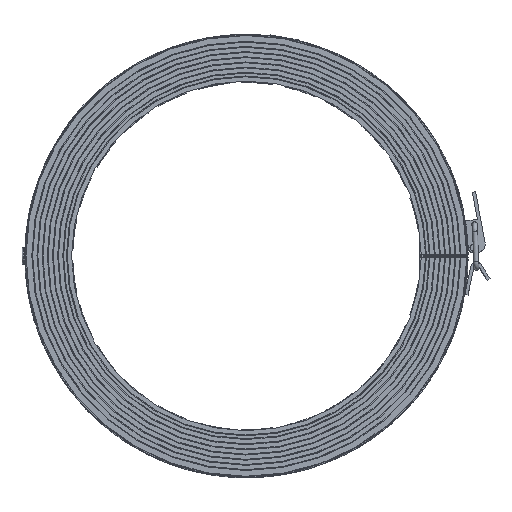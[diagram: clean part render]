
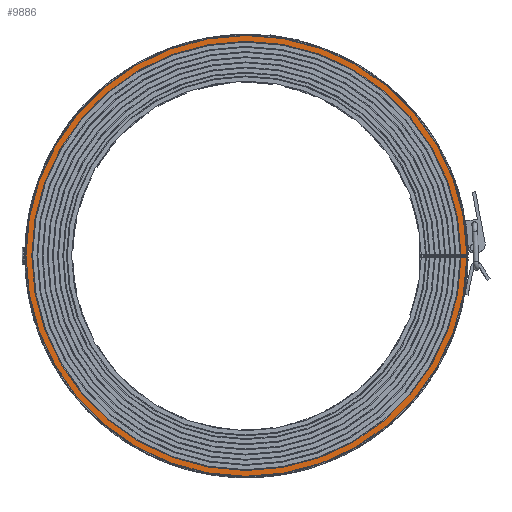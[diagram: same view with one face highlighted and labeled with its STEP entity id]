
A CAD part, top view. The second image highlights one B-rep face of the part: STEP entity #9886.
In plain terms, the highlighted planar face has unit normal (0, 0, 1).
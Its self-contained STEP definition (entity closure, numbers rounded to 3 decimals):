
#158=PLANE('',#10516);
#749=LINE('',#15321,#1590);
#754=LINE('',#15329,#1595);
#1590=VECTOR('',#12212,3.556);
#1595=VECTOR('',#12221,3.556);
#2576=FACE_OUTER_BOUND('',#3138,.T.);
#3138=EDGE_LOOP('',(#7283,#7284,#7285,#7286));
#3562=CIRCLE('',#10496,131.695);
#3573=CIRCLE('',#10517,135.25);
#4269=VERTEX_POINT('',#15250);
#4270=VERTEX_POINT('',#15252);
#4294=VERTEX_POINT('',#15319);
#4295=VERTEX_POINT('',#15327);
#5350=EDGE_CURVE('',#4270,#4269,#3562,.T.);
#5385=EDGE_CURVE('',#4294,#4269,#749,.T.);
#5390=EDGE_CURVE('',#4295,#4294,#3573,.T.);
#5391=EDGE_CURVE('',#4270,#4295,#754,.T.);
#7283=ORIENTED_EDGE('',*,*,#5350,.T.);
#7284=ORIENTED_EDGE('',*,*,#5385,.F.);
#7285=ORIENTED_EDGE('',*,*,#5390,.F.);
#7286=ORIENTED_EDGE('',*,*,#5391,.F.);
#9886=ADVANCED_FACE('',(#2576),#158,.T.);
#10496=AXIS2_PLACEMENT_3D('',#15253,#12148,#12149);
#10516=AXIS2_PLACEMENT_3D('',#15326,#12217,#12218);
#10517=AXIS2_PLACEMENT_3D('',#15328,#12219,#12220);
#12148=DIRECTION('center_axis',(0.,0.,
-1.));
#12149=DIRECTION('ref_axis',(1.,0.008,0.));
#12212=DIRECTION('',(-1.,0.,0.));
#12217=DIRECTION('center_axis',(0.,0.,
1.));
#12218=DIRECTION('ref_axis',(1.,0.,0.));
#12219=DIRECTION('center_axis',(0.,0.,-1.));
#12220=DIRECTION('ref_axis',(1.,0.007,0.));
#12221=DIRECTION('',(1.,0.,0.));
#15250=CARTESIAN_POINT('',(131.691,1.,45.));
#15252=CARTESIAN_POINT('',(131.691,-1.,45.));
#15253=CARTESIAN_POINT('Origin',(0.,0.,
45.));
#15319=CARTESIAN_POINT('',(135.246,1.,45.));
#15321=CARTESIAN_POINT('',(107.245,1.,45.));
#15326=CARTESIAN_POINT('Origin',(14.811,0.,
45.));
#15327=CARTESIAN_POINT('',(135.246,-1.,45.));
#15328=CARTESIAN_POINT('Origin',(0.,0.,45.));
#15329=CARTESIAN_POINT('',(135.246,-1.,45.));
